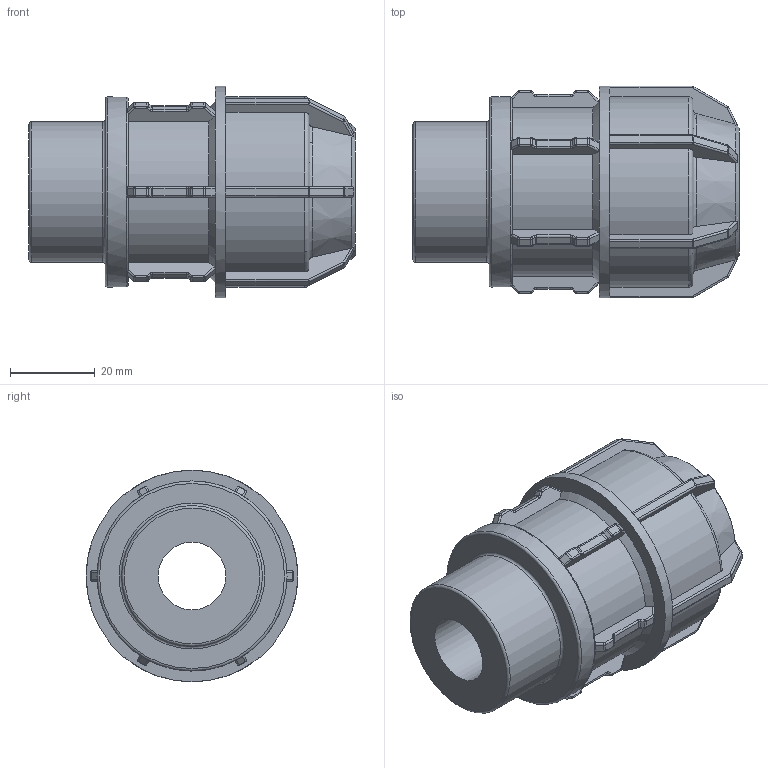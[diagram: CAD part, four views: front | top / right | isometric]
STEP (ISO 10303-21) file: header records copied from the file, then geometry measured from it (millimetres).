
FILE_DESCRIPTION(/* description */ ('PLASSON L.14 MALE ADAPTOR (SILVER) 20-1'''''),/* implementation_level */ '2;1');
FILE_NAME(/* name */ 'C:\Dropbox\KIMPROJECTS-Inventor\99-16-3568-Processing\Silver+MF ISRAEL\140200\140200020010.ipt.stp',/* time_stamp */ '2018-04-09T13:02:39+03:00',/* author */ ('KIM'),/* organization */ (''),/* preprocessor_version */ 'ST-DEVELOPER v15.6',/* originating_system */ 'Autodesk Inventor 2015',/* authorisation */ '');
FILE_SCHEMA (('AUTOMOTIVE_DESIGN { 1 0 10303 214 3 1 1 }'));
Length unit declared in the file: millimetre
Products named in the file (1): 140200020010
Bounding box: 77 x 50 x 50 mm (x, y, z)
Volume: 77574 mm3; surface area: 19548.1 mm2
Topology: 1 solids, 1 shells, 472 faces, 1171 edges, 694 vertices
Faces by surface type: cylinder 186, plane 159, bspline 72, torus 42, cone 13
Full cylindrical faces by diameter (mm): 16 x1, 20 x2, 33.249 x1, 44.886 x1, 50 x1
Entity records: 14478 total; most frequent: CARTESIAN_POINT 3762, DIRECTION 2310, ORIENTED_EDGE 2252, EDGE_CURVE 1126, AXIS2_PLACEMENT_3D 930, VERTEX_POINT 676, CIRCLE 508, EDGE_LOOP 488
